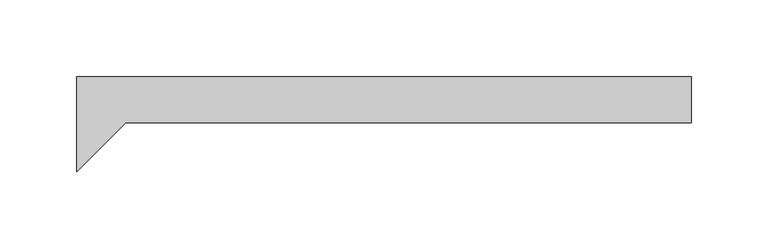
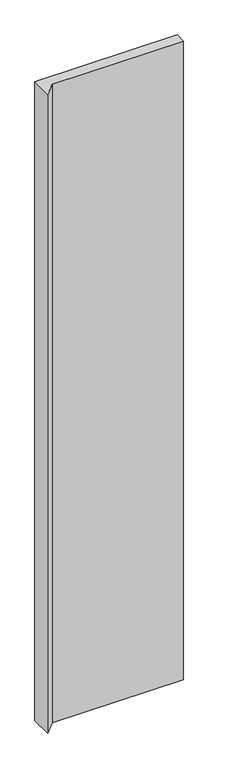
"""IFC4 building model written with IfcOpenShell, lengths in millimetres: plate geometry, ATELIERS 3S_EPURE CDB 400_VERTICAL : AZURO."""

from ifc_helpers import new_model, si_unit, origin, origin_with_axes, place, context, project, spatial, polyline, outline, extrude, source, transform, mapped, element, save


def plate_62f67941(model_context):
    return source(origin(), model_context, "Body", "SweptSolid", [
        extrude(outline(polyline([(199.9999998, -29.9980469), (-168.292885, -29.9980469), (-200.0000002, -61.705162), (-200.0000002, 0.0), (199.9999998, 0.0), (199.9999998, -29.9980469)])), origin_with_axes(), (0.0, 0.0, 1.0), 1900.0),
    ])


if __name__ == "__main__":
    model = new_model("IFC4")
    model_context = context("Model", 3, world=origin())
    ifc_project = project(units=[si_unit("LENGTHUNIT", "METRE", prefix="MILLI")], contexts=[model_context])
    site = spatial("IfcSite", under=ifc_project)
    building = spatial("IfcBuilding", under=site)
    placement = place(None, origin())
    plate_shape = plate_62f67941(model_context)
    element("IfcPlate", 1, ObjectType="ATELIERS 3S_EPURE CDB 400_VERTICAL : AZURO", at=placement, inside=building, context=model_context, shape_type="MappedRepresentation", body=[
        mapped(plate_shape, transform((0.0, 0.0, 0.0), x_axis=(1.0, 0.0, 0.0), y_axis=(0.0, 1.0, 0.0), z_axis=(0.0, 0.0, 1.0))),
    ])
    save(model, "model.ifc")
